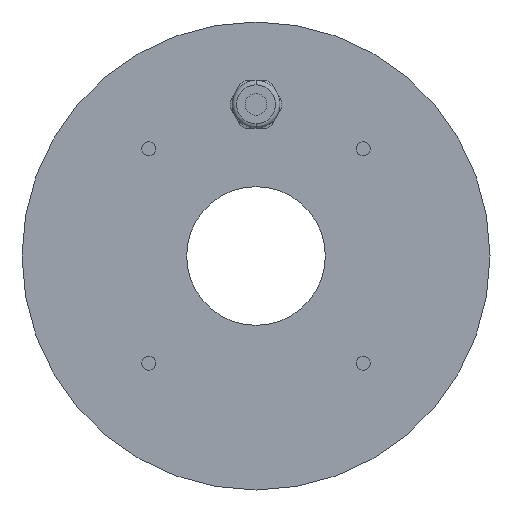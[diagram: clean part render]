
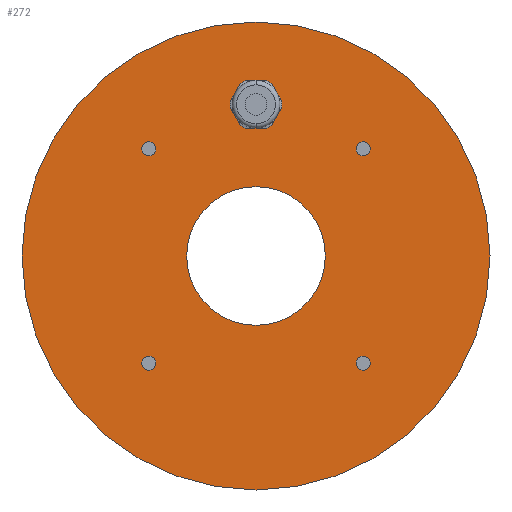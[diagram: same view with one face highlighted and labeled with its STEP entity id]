
A CAD part, front view. The second image highlights one B-rep face of the part: STEP entity #272.
In plain terms, the highlighted planar face has unit normal (0, -1, 0).
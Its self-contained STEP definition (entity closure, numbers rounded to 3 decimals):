
#12 = ORIENTED_EDGE ( 'NONE', *, *, #1060, .T. ) ;
#22 = DIRECTION ( 'NONE',  ( 0., 0., 1. ) ) ;
#77 = CARTESIAN_POINT ( 'NONE',  ( 0., 0., 38.4 ) ) ;
#89 = DIRECTION ( 'NONE',  ( 0., 1., 0. ) ) ;
#125 = DIRECTION ( 'NONE',  ( 0., 0., 1. ) ) ;
#181 = EDGE_LOOP ( 'NONE', ( #12, #1580 ) ) ;
#203 = ORIENTED_EDGE ( 'NONE', *, *, #2610, .T. ) ;
#211 = CARTESIAN_POINT ( 'NONE',  ( 0., 0., 31.6 ) ) ;
#245 = DIRECTION ( 'NONE',  ( 0., 0., 1. ) ) ;
#254 = AXIS2_PLACEMENT_3D ( 'NONE', #496, #3526, #2854 ) ;
#272 = ADVANCED_FACE ( 'NONE', ( #3338, #3599, #2991, #579, #2975, #3999, #490 ), #2196, .F. ) ;
#327 = EDGE_LOOP ( 'NONE', ( #4000, #1940 ) ) ;
#374 = VERTEX_POINT ( 'NONE', #3068 ) ;
#376 = VERTEX_POINT ( 'NONE', #749 ) ;
#377 = EDGE_CURVE ( 'NONE', #880, #537, #2823, .T. ) ;
#406 = EDGE_CURVE ( 'NONE', #3659, #1031, #3400, .T. ) ;
#417 = CARTESIAN_POINT ( 'NONE',  ( 0., 0., 0. ) ) ;
#490 = FACE_BOUND ( 'NONE', #327, .T. ) ;
#496 = CARTESIAN_POINT ( 'NONE',  ( -24.749, 0., 24.749 ) ) ;
#537 = VERTEX_POINT ( 'NONE', #3162 ) ;
#539 = ORIENTED_EDGE ( 'NONE', *, *, #406, .F. ) ;
#554 = CARTESIAN_POINT ( 'NONE',  ( 24.749, 0., -24.749 ) ) ;
#559 = VERTEX_POINT ( 'NONE', #2482 ) ;
#579 = FACE_BOUND ( 'NONE', #181, .T. ) ;
#618 = DIRECTION ( 'NONE',  ( 0., 0., 1. ) ) ;
#645 = AXIS2_PLACEMENT_3D ( 'NONE', #1552, #2911, #648 ) ;
#648 = DIRECTION ( 'NONE',  ( 0., 0., 1. ) ) ;
#662 = CIRCLE ( 'NONE', #4342, 1.65 ) ;
#689 = EDGE_CURVE ( 'NONE', #3821, #932, #1922, .T. ) ;
#716 = DIRECTION ( 'NONE',  ( 0., 1., 0. ) ) ;
#749 = CARTESIAN_POINT ( 'NONE',  ( 24.749, 0., -23.099 ) ) ;
#774 = DIRECTION ( 'NONE',  ( 0., 0., 1. ) ) ;
#863 = EDGE_CURVE ( 'NONE', #932, #3821, #3675, .T. ) ;
#880 = VERTEX_POINT ( 'NONE', #2783 ) ;
#932 = VERTEX_POINT ( 'NONE', #77 ) ;
#950 = CARTESIAN_POINT ( 'NONE',  ( 24.749, 0., 24.749 ) ) ;
#1031 = VERTEX_POINT ( 'NONE', #2829 ) ;
#1047 = DIRECTION ( 'NONE',  ( 0., 1., 0. ) ) ;
#1060 = EDGE_CURVE ( 'NONE', #374, #4327, #1287, .T. ) ;
#1093 = ORIENTED_EDGE ( 'NONE', *, *, #2200, .T. ) ;
#1189 = CIRCLE ( 'NONE', #254, 1.65 ) ;
#1287 = CIRCLE ( 'NONE', #3391, 1.65 ) ;
#1348 = DIRECTION ( 'NONE',  ( 0., 0., 1. ) ) ;
#1355 = ORIENTED_EDGE ( 'NONE', *, *, #2756, .T. ) ;
#1380 = CARTESIAN_POINT ( 'NONE',  ( -24.749, 0., 23.099 ) ) ;
#1405 = EDGE_CURVE ( 'NONE', #2391, #559, #2620, .T. ) ;
#1441 = DIRECTION ( 'NONE',  ( 0., 0., 1. ) ) ;
#1502 = AXIS2_PLACEMENT_3D ( 'NONE', #1595, #4314, #2952 ) ;
#1551 = DIRECTION ( 'NONE',  ( 0., 1., 0. ) ) ;
#1552 = CARTESIAN_POINT ( 'NONE',  ( 0., 0., 35. ) ) ;
#1580 = ORIENTED_EDGE ( 'NONE', *, *, #4121, .T. ) ;
#1595 = CARTESIAN_POINT ( 'NONE',  ( 24.749, 0., 24.749 ) ) ;
#1646 = AXIS2_PLACEMENT_3D ( 'NONE', #1703, #1047, #2729 ) ;
#1703 = CARTESIAN_POINT ( 'NONE',  ( 0., 0., 0. ) ) ;
#1713 = EDGE_LOOP ( 'NONE', ( #3955, #1093 ) ) ;
#1727 = CARTESIAN_POINT ( 'NONE',  ( 24.749, 0., 23.099 ) ) ;
#1778 = VERTEX_POINT ( 'NONE', #3419 ) ;
#1782 = DIRECTION ( 'NONE',  ( 0., 1., 0. ) ) ;
#1824 = CIRCLE ( 'NONE', #2456, 1.65 ) ;
#1909 = DIRECTION ( 'NONE',  ( 0., 0., 1. ) ) ;
#1922 = CIRCLE ( 'NONE', #645, 3.4 ) ;
#1940 = ORIENTED_EDGE ( 'NONE', *, *, #377, .T. ) ;
#1943 = CARTESIAN_POINT ( 'NONE',  ( -24.749, 0., -24.749 ) ) ;
#1988 = DIRECTION ( 'NONE',  ( 0., 1., 0. ) ) ;
#1992 = ORIENTED_EDGE ( 'NONE', *, *, #3271, .F. ) ;
#1998 = ORIENTED_EDGE ( 'NONE', *, *, #3189, .T. ) ;
#2042 = DIRECTION ( 'NONE',  ( 0., 1., 0. ) ) ;
#2102 = CARTESIAN_POINT ( 'NONE',  ( 0., 0., 0. ) ) ;
#2123 = VERTEX_POINT ( 'NONE', #4075 ) ;
#2164 = CARTESIAN_POINT ( 'NONE',  ( 0., 0., -54. ) ) ;
#2196 = PLANE ( 'NONE',  #4028 ) ;
#2200 = EDGE_CURVE ( 'NONE', #2447, #376, #3903, .T. ) ;
#2230 = AXIS2_PLACEMENT_3D ( 'NONE', #2663, #1988, #3396 ) ;
#2300 = DIRECTION ( 'NONE',  ( 0., 1., 0. ) ) ;
#2336 = DIRECTION ( 'NONE',  ( 0., 0., 1. ) ) ;
#2391 = VERTEX_POINT ( 'NONE', #1727 ) ;
#2447 = VERTEX_POINT ( 'NONE', #3925 ) ;
#2456 = AXIS2_PLACEMENT_3D ( 'NONE', #1943, #2943, #3764 ) ;
#2482 = CARTESIAN_POINT ( 'NONE',  ( 24.749, 0., 26.399 ) ) ;
#2506 = ORIENTED_EDGE ( 'NONE', *, *, #863, .T. ) ;
#2610 = EDGE_CURVE ( 'NONE', #559, #2391, #4366, .T. ) ;
#2620 = CIRCLE ( 'NONE', #1502, 1.65 ) ;
#2646 = CIRCLE ( 'NONE', #2992, 54. ) ;
#2663 = CARTESIAN_POINT ( 'NONE',  ( 0., 0., 0. ) ) ;
#2671 = ORIENTED_EDGE ( 'NONE', *, *, #1405, .T. ) ;
#2708 = CIRCLE ( 'NONE', #2230, 16. ) ;
#2729 = DIRECTION ( 'NONE',  ( 0., 0., 1. ) ) ;
#2756 = EDGE_CURVE ( 'NONE', #2123, #1778, #1824, .T. ) ;
#2759 = AXIS2_PLACEMENT_3D ( 'NONE', #2765, #716, #125 ) ;
#2765 = CARTESIAN_POINT ( 'NONE',  ( 0., 0., 35. ) ) ;
#2783 = CARTESIAN_POINT ( 'NONE',  ( 0., 0., 16. ) ) ;
#2803 = ORIENTED_EDGE ( 'NONE', *, *, #689, .T. ) ;
#2823 = CIRCLE ( 'NONE', #3118, 16. ) ;
#2829 = CARTESIAN_POINT ( 'NONE',  ( 0., 0., 54. ) ) ;
#2854 = DIRECTION ( 'NONE',  ( 0., 0., 1. ) ) ;
#2911 = DIRECTION ( 'NONE',  ( 0., 1., 0. ) ) ;
#2943 = DIRECTION ( 'NONE',  ( 0., 1., 0. ) ) ;
#2952 = DIRECTION ( 'NONE',  ( 0., 0., 1. ) ) ;
#2975 = FACE_BOUND ( 'NONE', #3738, .T. ) ;
#2988 = CARTESIAN_POINT ( 'NONE',  ( 24.749, 0., -24.749 ) ) ;
#2991 = FACE_BOUND ( 'NONE', #4022, .T. ) ;
#2992 = AXIS2_PLACEMENT_3D ( 'NONE', #417, #1782, #22 ) ;
#3003 = CARTESIAN_POINT ( 'NONE',  ( -24.749, 0., 24.749 ) ) ;
#3068 = CARTESIAN_POINT ( 'NONE',  ( -24.749, 0., 26.399 ) ) ;
#3118 = AXIS2_PLACEMENT_3D ( 'NONE', #2102, #89, #1441 ) ;
#3162 = CARTESIAN_POINT ( 'NONE',  ( 0., 0., -16. ) ) ;
#3166 = EDGE_LOOP ( 'NONE', ( #1355, #1998 ) ) ;
#3189 = EDGE_CURVE ( 'NONE', #1778, #2123, #662, .T. ) ;
#3271 = EDGE_CURVE ( 'NONE', #1031, #3659, #2646, .T. ) ;
#3338 = FACE_BOUND ( 'NONE', #3166, .T. ) ;
#3378 = EDGE_LOOP ( 'NONE', ( #539, #1992 ) ) ;
#3382 = DIRECTION ( 'NONE',  ( 0., 1., 0. ) ) ;
#3391 = AXIS2_PLACEMENT_3D ( 'NONE', #3003, #2042, #618 ) ;
#3396 = DIRECTION ( 'NONE',  ( 0., 0., 1. ) ) ;
#3400 = CIRCLE ( 'NONE', #1646, 54. ) ;
#3419 = CARTESIAN_POINT ( 'NONE',  ( -24.749, 0., -26.399 ) ) ;
#3509 = EDGE_CURVE ( 'NONE', #537, #880, #2708, .T. ) ;
#3526 = DIRECTION ( 'NONE',  ( 0., 1., 0. ) ) ;
#3582 = EDGE_CURVE ( 'NONE', #376, #2447, #3715, .T. ) ;
#3599 = FACE_BOUND ( 'NONE', #1713, .T. ) ;
#3659 = VERTEX_POINT ( 'NONE', #2164 ) ;
#3675 = CIRCLE ( 'NONE', #2759, 3.4 ) ;
#3715 = CIRCLE ( 'NONE', #4063, 1.65 ) ;
#3738 = EDGE_LOOP ( 'NONE', ( #2506, #2803 ) ) ;
#3764 = DIRECTION ( 'NONE',  ( 0., 0., 1. ) ) ;
#3821 = VERTEX_POINT ( 'NONE', #211 ) ;
#3874 = AXIS2_PLACEMENT_3D ( 'NONE', #950, #2300, #2336 ) ;
#3876 = CARTESIAN_POINT ( 'NONE',  ( 0., 0., 0. ) ) ;
#3903 = CIRCLE ( 'NONE', #4262, 1.65 ) ;
#3925 = CARTESIAN_POINT ( 'NONE',  ( 24.749, 0., -26.399 ) ) ;
#3955 = ORIENTED_EDGE ( 'NONE', *, *, #3582, .T. ) ;
#3999 = FACE_OUTER_BOUND ( 'NONE', #3378, .T. ) ;
#4000 = ORIENTED_EDGE ( 'NONE', *, *, #3509, .T. ) ;
#4022 = EDGE_LOOP ( 'NONE', ( #203, #2671 ) ) ;
#4028 = AXIS2_PLACEMENT_3D ( 'NONE', #3876, #4295, #245 ) ;
#4063 = AXIS2_PLACEMENT_3D ( 'NONE', #2988, #4345, #1348 ) ;
#4075 = CARTESIAN_POINT ( 'NONE',  ( -24.749, 0., -23.099 ) ) ;
#4117 = CARTESIAN_POINT ( 'NONE',  ( -24.749, 0., -24.749 ) ) ;
#4121 = EDGE_CURVE ( 'NONE', #4327, #374, #1189, .T. ) ;
#4262 = AXIS2_PLACEMENT_3D ( 'NONE', #554, #1551, #1909 ) ;
#4295 = DIRECTION ( 'NONE',  ( 0., 1., 0. ) ) ;
#4314 = DIRECTION ( 'NONE',  ( 0., 1., 0. ) ) ;
#4327 = VERTEX_POINT ( 'NONE', #1380 ) ;
#4342 = AXIS2_PLACEMENT_3D ( 'NONE', #4117, #3382, #774 ) ;
#4345 = DIRECTION ( 'NONE',  ( 0., 1., 0. ) ) ;
#4366 = CIRCLE ( 'NONE', #3874, 1.65 ) ;
